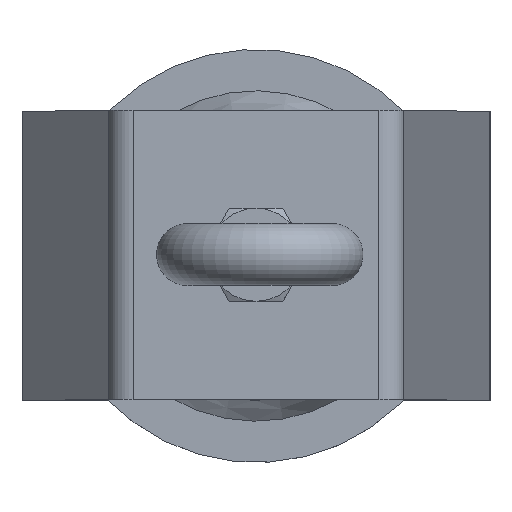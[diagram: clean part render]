
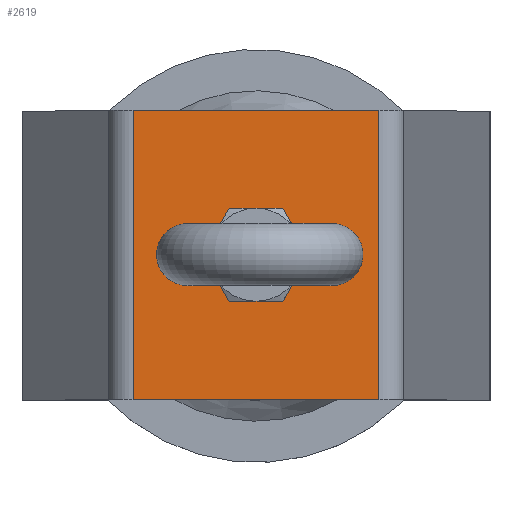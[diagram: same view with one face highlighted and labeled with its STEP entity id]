
A CAD part, top view. The second image highlights one B-rep face of the part: STEP entity #2619.
In plain terms, the highlighted planar face has unit normal (0, 0, 1).
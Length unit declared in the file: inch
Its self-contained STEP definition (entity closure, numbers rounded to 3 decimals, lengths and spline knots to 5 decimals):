
#224=LINE('',#3834,#332);
#225=LINE('',#3836,#333);
#226=LINE('',#3838,#334);
#227=LINE('',#3839,#335);
#332=VECTOR('',#3186,1.75);
#333=VECTOR('',#3187,1.48814);
#334=VECTOR('',#3188,1.75);
#335=VECTOR('',#3189,1.48814);
#448=PLANE('',#2835);
#523=FACE_BOUND('',#793,.T.);
#597=FACE_OUTER_BOUND('',#792,.T.);
#792=EDGE_LOOP('',(#1756,#1757,#1758,#1759));
#793=EDGE_LOOP('',(#1760));
#1011=CIRCLE('',#2814,0.20313);
#1126=VERTEX_POINT('',#3765);
#1145=VERTEX_POINT('',#3827);
#1146=VERTEX_POINT('',#3833);
#1147=VERTEX_POINT('',#3835);
#1148=VERTEX_POINT('',#3837);
#1349=EDGE_CURVE('',#1126,#1126,#1011,.T.);
#1383=EDGE_CURVE('',#1146,#1145,#224,.T.);
#1384=EDGE_CURVE('',#1147,#1146,#225,.T.);
#1385=EDGE_CURVE('',#1147,#1148,#226,.T.);
#1386=EDGE_CURVE('',#1145,#1148,#227,.T.);
#1756=ORIENTED_EDGE('',*,*,#1383,.F.);
#1757=ORIENTED_EDGE('',*,*,#1384,.F.);
#1758=ORIENTED_EDGE('',*,*,#1385,.T.);
#1759=ORIENTED_EDGE('',*,*,#1386,.F.);
#1760=ORIENTED_EDGE('',*,*,#1349,.T.);
#2619=ADVANCED_FACE('',(#597,#523),#448,.F.);
#2814=AXIS2_PLACEMENT_3D('',#3766,#3116,#3117);
#2835=AXIS2_PLACEMENT_3D('',#3832,#3184,#3185);
#3116=DIRECTION('center_axis',(0.,0.,
-1.));
#3117=DIRECTION('ref_axis',(-1.,0.,0.));
#3184=DIRECTION('center_axis',(0.,0.,
-1.));
#3185=DIRECTION('ref_axis',(1.,0.,0.));
#3186=DIRECTION('',(0.,-1.,0.));
#3187=DIRECTION('',(1.,0.,0.));
#3188=DIRECTION('',(0.,-1.,0.));
#3189=DIRECTION('',(-1.,0.,0.));
#3765=CARTESIAN_POINT('',(-0.20313,0.,0.));
#3766=CARTESIAN_POINT('Origin',(0.,0.,
0.));
#3827=CARTESIAN_POINT('',(0.74407,-0.875,0.));
#3832=CARTESIAN_POINT('Origin',(0.,0.,
0.));
#3833=CARTESIAN_POINT('',(0.74407,0.875,0.));
#3834=CARTESIAN_POINT('',(0.74407,0.,0.));
#3835=CARTESIAN_POINT('',(-0.74407,0.875,0.));
#3836=CARTESIAN_POINT('',(5.06766,0.875,0.));
#3837=CARTESIAN_POINT('',(-0.74407,-0.875,0.));
#3838=CARTESIAN_POINT('',(-0.74407,0.,0.));
#3839=CARTESIAN_POINT('',(-5.52219,-0.875,0.));
